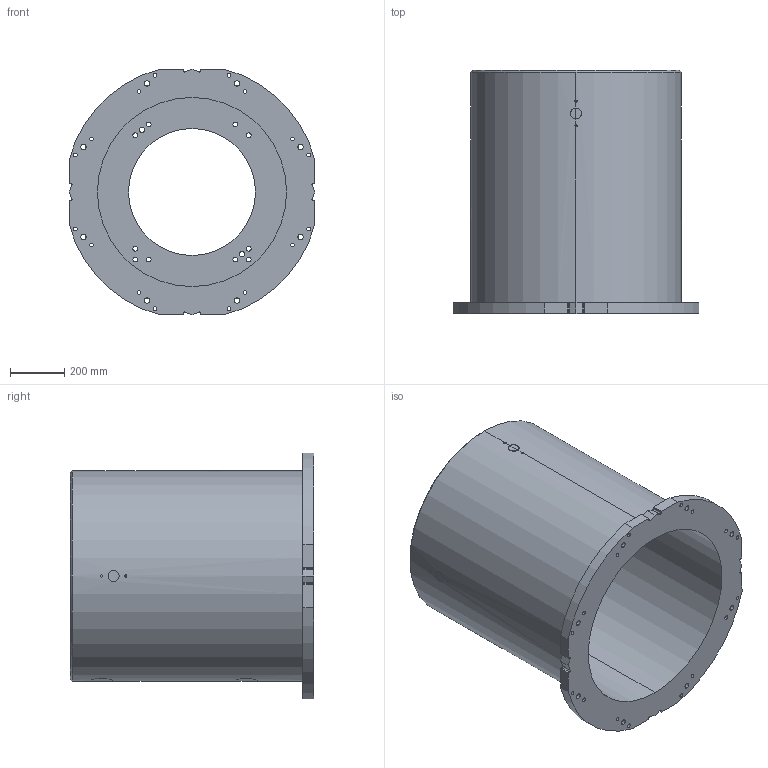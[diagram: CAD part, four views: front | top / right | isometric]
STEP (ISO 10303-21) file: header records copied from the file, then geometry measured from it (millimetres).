
FILE_DESCRIPTION (( 'STEP AP214' ), '1' );
FILE_NAME ('P-900.STEP', '2025-12-10T13:37:07', ( '' ), ( '' ), 'SwSTEP 2.0', 'SolidWorks 2022', '' );
FILE_SCHEMA (( 'AUTOMOTIVE_DESIGN' ));
Length unit declared in the file: millimetre
Products named in the file (1): P-900
Bounding box: 910 x 900 x 910 mm (x, y, z)
Volume: 99303966.6 mm3; surface area: 5248592.3 mm2
Topology: 1 solids, 1 shells, 203 faces, 565 edges, 376 vertices
Faces by surface type: cylinder 149, plane 28, bspline 24, cone 2
Entity records: 12485 total; most frequent: CARTESIAN_POINT 6354, ORIENTED_EDGE 1130, DIRECTION 969, EDGE_CURVE 565, AXIS2_PLACEMENT_3D 378, VERTEX_POINT 376, EDGE_LOOP 289, VECTOR 213
